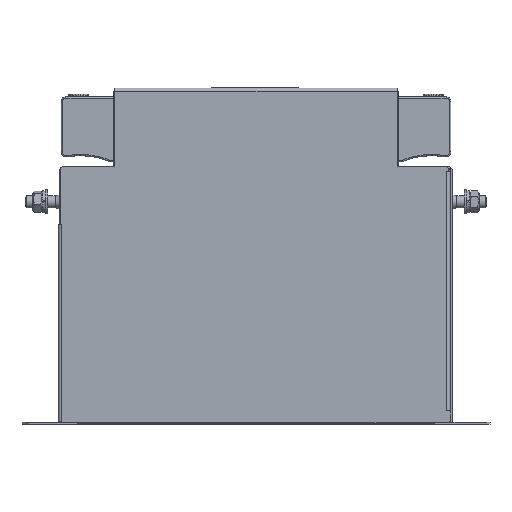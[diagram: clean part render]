
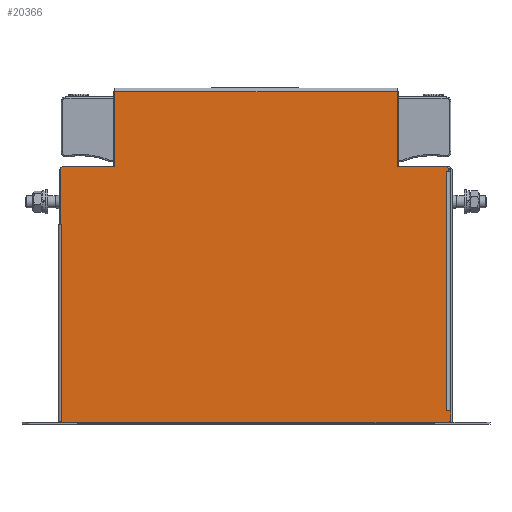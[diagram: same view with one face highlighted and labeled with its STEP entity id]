
A CAD part, top view. The second image highlights one B-rep face of the part: STEP entity #20366.
In plain terms, the highlighted planar face has unit normal (0, 0, 1).
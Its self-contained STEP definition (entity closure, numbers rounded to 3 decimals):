
#1993=LINE('',#33534,#3895);
#1999=LINE('',#33544,#3901);
#2001=LINE('',#33548,#3903);
#2004=LINE('',#33554,#3906);
#2006=LINE('',#33559,#3908);
#2016=LINE('',#33584,#3918);
#2017=LINE('',#33588,#3919);
#2023=LINE('',#33599,#3925);
#2024=LINE('',#33602,#3926);
#2027=LINE('',#33609,#3929);
#2031=LINE('',#33617,#3933);
#2035=LINE('',#33624,#3937);
#2050=LINE('',#33668,#3952);
#2053=LINE('',#33676,#3955);
#2054=LINE('',#33680,#3956);
#2060=LINE('',#33691,#3962);
#2061=LINE('',#33693,#3963);
#2063=LINE('',#33698,#3965);
#2067=LINE('',#33706,#3969);
#2071=LINE('',#33714,#3973);
#2078=LINE('',#33732,#3980);
#2081=LINE('',#33737,#3983);
#2082=LINE('',#33739,#3984);
#2084=LINE('',#33744,#3986);
#2086=LINE('',#33747,#3988);
#2103=LINE('',#33779,#4005);
#2105=LINE('',#33782,#4007);
#3895=VECTOR('',#27486,10.);
#3901=VECTOR('',#27494,10.);
#3903=VECTOR('',#27498,10.);
#3906=VECTOR('',#27503,10.);
#3908=VECTOR('',#27507,10.);
#3918=VECTOR('',#27535,10.);
#3919=VECTOR('',#27538,10.);
#3925=VECTOR('',#27546,10.);
#3926=VECTOR('',#27549,10.);
#3929=VECTOR('',#27554,10.);
#3933=VECTOR('',#27560,10.);
#3937=VECTOR('',#27566,10.);
#3952=VECTOR('',#27615,10.);
#3955=VECTOR('',#27624,10.);
#3956=VECTOR('',#27627,10.);
#3962=VECTOR('',#27635,10.);
#3963=VECTOR('',#27638,10.);
#3965=VECTOR('',#27642,10.);
#3969=VECTOR('',#27648,10.);
#3973=VECTOR('',#27654,10.);
#3980=VECTOR('',#27679,10.);
#3983=VECTOR('',#27684,10.);
#3984=VECTOR('',#27687,10.);
#3986=VECTOR('',#27691,10.);
#3988=VECTOR('',#27695,10.);
#4005=VECTOR('',#27726,10.);
#4007=VECTOR('',#27730,10.);
#4725=PLANE('',#22211);
#7162=FACE_OUTER_BOUND('',#8466,.T.);
#8466=EDGE_LOOP('',(#18842,#18843,#18844,#18845,#18846,#18847,#18848,#18849,
#18850,#18851,#18852,#18853,#18854,#18855,#18856,#18857,#18858,#18859,#18860,
#18861,#18862,#18863,#18864,#18865,#18866,#18867,#18868));
#10783=VERTEX_POINT('',#33531);
#10784=VERTEX_POINT('',#33533);
#10785=VERTEX_POINT('',#33538);
#10787=VERTEX_POINT('',#33542);
#10788=VERTEX_POINT('',#33546);
#10789=VERTEX_POINT('',#33550);
#10790=VERTEX_POINT('',#33552);
#10792=VERTEX_POINT('',#33557);
#10799=VERTEX_POINT('',#33586);
#10800=VERTEX_POINT('',#33587);
#10804=VERTEX_POINT('',#33596);
#10805=VERTEX_POINT('',#33601);
#10807=VERTEX_POINT('',#33607);
#10808=VERTEX_POINT('',#33608);
#10811=VERTEX_POINT('',#33616);
#10813=VERTEX_POINT('',#33622);
#10826=VERTEX_POINT('',#33672);
#10828=VERTEX_POINT('',#33678);
#10829=VERTEX_POINT('',#33679);
#10833=VERTEX_POINT('',#33688);
#10834=VERTEX_POINT('',#33696);
#10835=VERTEX_POINT('',#33697);
#10838=VERTEX_POINT('',#33705);
#10841=VERTEX_POINT('',#33712);
#10844=VERTEX_POINT('',#33734);
#10845=VERTEX_POINT('',#33741);
#10854=VERTEX_POINT('',#33777);
#13406=EDGE_CURVE('',#10783,#10784,#1993,.T.);
#13412=EDGE_CURVE('',#10785,#10787,#1999,.T.);
#13414=EDGE_CURVE('',#10787,#10788,#2001,.T.);
#13417=EDGE_CURVE('',#10789,#10790,#2004,.T.);
#13419=EDGE_CURVE('',#10790,#10792,#2006,.T.);
#13433=EDGE_CURVE('',#10792,#10785,#2016,.T.);
#13434=EDGE_CURVE('',#10799,#10800,#2017,.T.);
#13440=EDGE_CURVE('',#10804,#10799,#2023,.T.);
#13441=EDGE_CURVE('',#10800,#10805,#2024,.T.);
#13444=EDGE_CURVE('',#10807,#10808,#2027,.T.);
#13448=EDGE_CURVE('',#10811,#10807,#2031,.T.);
#13452=EDGE_CURVE('',#10808,#10813,#2035,.T.);
#13475=EDGE_CURVE('',#10813,#10804,#2050,.T.);
#13478=EDGE_CURVE('',#10784,#10826,#2053,.T.);
#13479=EDGE_CURVE('',#10828,#10829,#2054,.T.);
#13485=EDGE_CURVE('',#10833,#10828,#2060,.T.);
#13486=EDGE_CURVE('',#10829,#10826,#2061,.T.);
#13488=EDGE_CURVE('',#10834,#10835,#2063,.T.);
#13492=EDGE_CURVE('',#10838,#10834,#2067,.T.);
#13496=EDGE_CURVE('',#10835,#10841,#2071,.T.);
#13507=EDGE_CURVE('',#10841,#10833,#2078,.T.);
#13510=EDGE_CURVE('',#10838,#10844,#2081,.T.);
#13511=EDGE_CURVE('',#10844,#10788,#2082,.T.);
#13513=EDGE_CURVE('',#10845,#10805,#2084,.T.);
#13515=EDGE_CURVE('',#10789,#10845,#2086,.T.);
#13532=EDGE_CURVE('',#10811,#10854,#2103,.T.);
#13534=EDGE_CURVE('',#10854,#10783,#2105,.T.);
#18842=ORIENTED_EDGE('',*,*,#13534,.F.);
#18843=ORIENTED_EDGE('',*,*,#13532,.F.);
#18844=ORIENTED_EDGE('',*,*,#13448,.T.);
#18845=ORIENTED_EDGE('',*,*,#13444,.T.);
#18846=ORIENTED_EDGE('',*,*,#13452,.T.);
#18847=ORIENTED_EDGE('',*,*,#13475,.T.);
#18848=ORIENTED_EDGE('',*,*,#13440,.T.);
#18849=ORIENTED_EDGE('',*,*,#13434,.T.);
#18850=ORIENTED_EDGE('',*,*,#13441,.T.);
#18851=ORIENTED_EDGE('',*,*,#13513,.F.);
#18852=ORIENTED_EDGE('',*,*,#13515,.F.);
#18853=ORIENTED_EDGE('',*,*,#13417,.T.);
#18854=ORIENTED_EDGE('',*,*,#13419,.T.);
#18855=ORIENTED_EDGE('',*,*,#13433,.T.);
#18856=ORIENTED_EDGE('',*,*,#13412,.T.);
#18857=ORIENTED_EDGE('',*,*,#13414,.T.);
#18858=ORIENTED_EDGE('',*,*,#13511,.F.);
#18859=ORIENTED_EDGE('',*,*,#13510,.F.);
#18860=ORIENTED_EDGE('',*,*,#13492,.T.);
#18861=ORIENTED_EDGE('',*,*,#13488,.T.);
#18862=ORIENTED_EDGE('',*,*,#13496,.T.);
#18863=ORIENTED_EDGE('',*,*,#13507,.T.);
#18864=ORIENTED_EDGE('',*,*,#13485,.T.);
#18865=ORIENTED_EDGE('',*,*,#13479,.T.);
#18866=ORIENTED_EDGE('',*,*,#13486,.T.);
#18867=ORIENTED_EDGE('',*,*,#13478,.F.);
#18868=ORIENTED_EDGE('',*,*,#13406,.F.);
#20366=ADVANCED_FACE('',(#7162),#4725,.T.);
#22211=AXIS2_PLACEMENT_3D('',#33785,#27735,#27736);
#27486=DIRECTION('',(-1.,0.,0.));
#27494=DIRECTION('',(0.,-1.,0.));
#27498=DIRECTION('',(-1.,0.,0.));
#27503=DIRECTION('',(-1.,0.,0.));
#27507=DIRECTION('',(0.,1.,0.));
#27535=DIRECTION('',(-1.,0.,0.));
#27538=DIRECTION('',(0.,1.,0.));
#27546=DIRECTION('',(-1.,0.,0.));
#27549=DIRECTION('',(1.,0.,0.));
#27554=DIRECTION('',(0.,1.,0.));
#27560=DIRECTION('',(-1.,0.,0.));
#27566=DIRECTION('',(1.,0.,0.));
#27615=DIRECTION('',(0.,1.,0.));
#27624=DIRECTION('',(0.,1.,0.));
#27627=DIRECTION('',(0.,-1.,0.));
#27635=DIRECTION('',(1.,0.,0.));
#27638=DIRECTION('',(-1.,0.,0.));
#27642=DIRECTION('',(0.,-1.,0.));
#27648=DIRECTION('',(1.,0.,0.));
#27654=DIRECTION('',(-1.,0.,0.));
#27679=DIRECTION('',(0.,-1.,0.));
#27684=DIRECTION('',(0.,1.,0.));
#27687=DIRECTION('',(0.707,0.707,0.));
#27691=DIRECTION('',(0.,-1.,0.));
#27695=DIRECTION('',(0.707,-0.707,0.));
#27726=DIRECTION('',(0.,-1.,0.));
#27730=DIRECTION('',(-0.707,-0.707,0.));
#27735=DIRECTION('center_axis',(0.,0.,
1.));
#27736=DIRECTION('ref_axis',(1.,0.,0.));
#33531=CARTESIAN_POINT('',(80.05,0.5,22.45));
#33533=CARTESIAN_POINT('',(-81.05,0.5,22.45));
#33534=CARTESIAN_POINT('',(-80.25,0.5,22.45));
#33538=CARTESIAN_POINT('',(-58.95,138.5,22.45));
#33542=CARTESIAN_POINT('',(-58.95,107.2,22.45));
#33544=CARTESIAN_POINT('',(-58.95,105.125,22.45));
#33546=CARTESIAN_POINT('',(-80.45,107.2,22.45));
#33548=CARTESIAN_POINT('',(-29.475,107.2,22.45));
#33550=CARTESIAN_POINT('',(79.25,107.2,22.45));
#33552=CARTESIAN_POINT('',(58.95,107.2,22.45));
#33554=CARTESIAN_POINT('',(40.125,107.2,22.45));
#33557=CARTESIAN_POINT('',(58.95,138.5,22.45));
#33559=CARTESIAN_POINT('',(58.95,88.725,22.45));
#33584=CARTESIAN_POINT('',(29.475,138.5,22.45));
#33586=CARTESIAN_POINT('',(79.44,105.2,22.45));
#33587=CARTESIAN_POINT('',(79.44,105.21,22.45));
#33588=CARTESIAN_POINT('',(79.44,87.725,22.45));
#33596=CARTESIAN_POINT('',(79.45,105.2,22.45));
#33599=CARTESIAN_POINT('',(40.125,105.2,22.45));
#33601=CARTESIAN_POINT('',(80.25,105.21,22.45));
#33602=CARTESIAN_POINT('',(39.72,105.21,22.45));
#33607=CARTESIAN_POINT('',(79.44,5.49,22.45));
#33608=CARTESIAN_POINT('',(79.44,5.5,22.45));
#33609=CARTESIAN_POINT('',(79.44,37.87,22.45));
#33616=CARTESIAN_POINT('',(81.05,5.49,22.45));
#33617=CARTESIAN_POINT('',(40.125,5.49,22.45));
#33622=CARTESIAN_POINT('',(79.45,5.5,22.45));
#33624=CARTESIAN_POINT('',(39.72,5.5,22.45));
#33668=CARTESIAN_POINT('',(79.45,37.875,22.45));
#33672=CARTESIAN_POINT('',(-81.05,0.99,22.45));
#33676=CARTESIAN_POINT('',(-81.05,35.375,22.45));
#33678=CARTESIAN_POINT('',(-80.94,1.,22.45));
#33679=CARTESIAN_POINT('',(-80.94,0.99,22.45));
#33680=CARTESIAN_POINT('',(-80.94,35.625,22.45));
#33688=CARTESIAN_POINT('',(-80.95,1.,22.45));
#33691=CARTESIAN_POINT('',(-40.875,1.,22.45));
#33693=CARTESIAN_POINT('',(-40.47,0.99,22.45));
#33696=CARTESIAN_POINT('',(-80.94,83.21,22.45));
#33697=CARTESIAN_POINT('',(-80.94,83.2,22.45));
#33698=CARTESIAN_POINT('',(-80.94,76.73,22.45));
#33705=CARTESIAN_POINT('',(-81.45,83.21,22.45));
#33706=CARTESIAN_POINT('',(-40.875,83.21,22.45));
#33712=CARTESIAN_POINT('',(-80.95,83.2,22.45));
#33714=CARTESIAN_POINT('',(-40.47,83.2,22.45));
#33732=CARTESIAN_POINT('',(-80.95,76.725,22.45));
#33734=CARTESIAN_POINT('',(-81.45,106.2,22.45));
#33737=CARTESIAN_POINT('',(-81.45,35.375,22.45));
#33739=CARTESIAN_POINT('',(-69.825,117.825,22.45));
#33741=CARTESIAN_POINT('',(80.25,106.2,22.45));
#33744=CARTESIAN_POINT('',(80.25,0.5,22.45));
#33747=CARTESIAN_POINT('',(68.925,117.525,22.45));
#33777=CARTESIAN_POINT('',(81.05,1.5,22.45));
#33779=CARTESIAN_POINT('',(81.05,5.49,22.45));
#33782=CARTESIAN_POINT('',(77.725,-1.825,22.45));
#33785=CARTESIAN_POINT('Origin',(0.,70.25,
22.45));
